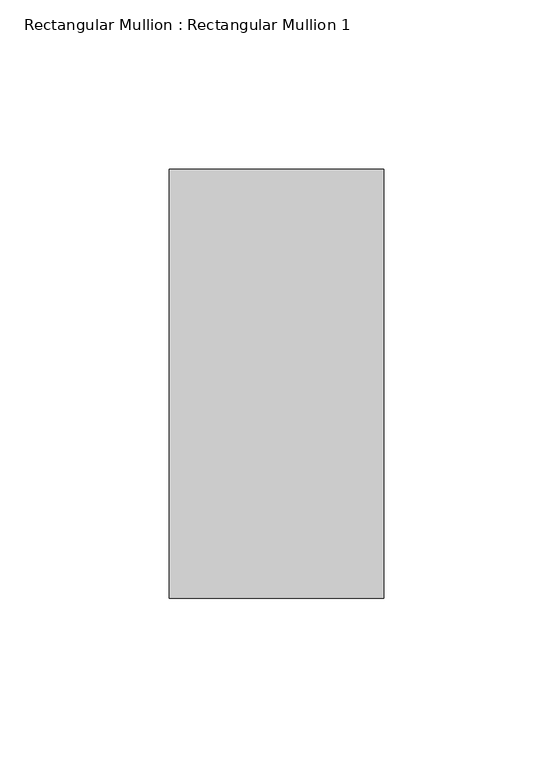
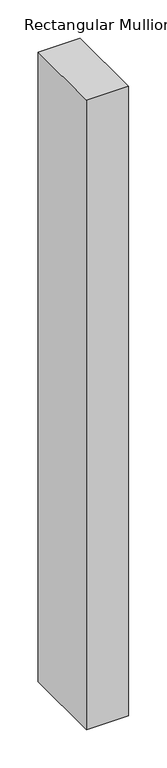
"""IFC4 building model written with IfcOpenShell, lengths in millimetres: member geometry, Rectangular Mullion : Rectangular Mullion 1."""

from ifc_helpers import new_model, si_unit, frame, origin, place, context, project, spatial, polyline, outline, extrude, source, transform, mapped, element, save


def rectangular_mullion_rectangular_mullion_1_3d9b8911(model_context):
    return source(origin(), model_context, "Body", "SweptSolid", [
        extrude(outline(polyline([(0.0, 63.5), (0.0, -63.5), (-63.5, -63.5), (-63.5, 63.5), (0.0, 63.5)])), frame((0.0, 0.0, -1004.5257062), z_axis=(0.0, 0.0, 1.0), x_axis=(1.0, 0.0, 0.0)), (0.0, 0.0, 1.0), 1004.5257062),
    ])


if __name__ == "__main__":
    model = new_model("IFC4")
    model_context = context("Model", 3, world=origin())
    ifc_project = project(units=[si_unit("LENGTHUNIT", "METRE", prefix="MILLI")], contexts=[model_context])
    site = spatial("IfcSite", under=ifc_project)
    building = spatial("IfcBuilding", under=site)
    placement = place(None, origin())
    rectangular_mullion_rectangular_mullion_1_shape = rectangular_mullion_rectangular_mullion_1_3d9b8911(model_context)
    element("IfcMember", 1, ObjectType="Rectangular Mullion : Rectangular Mullion 1", at=placement, inside=building, context=model_context, shape_type="MappedRepresentation", body=[
        mapped(rectangular_mullion_rectangular_mullion_1_shape, transform((0.0, 0.0, 0.0), x_axis=(1.0, 0.0, 0.0), y_axis=(0.0, 1.0, 0.0), z_axis=(0.0, 0.0, 1.0))),
    ])
    save(model, "model.ifc")
